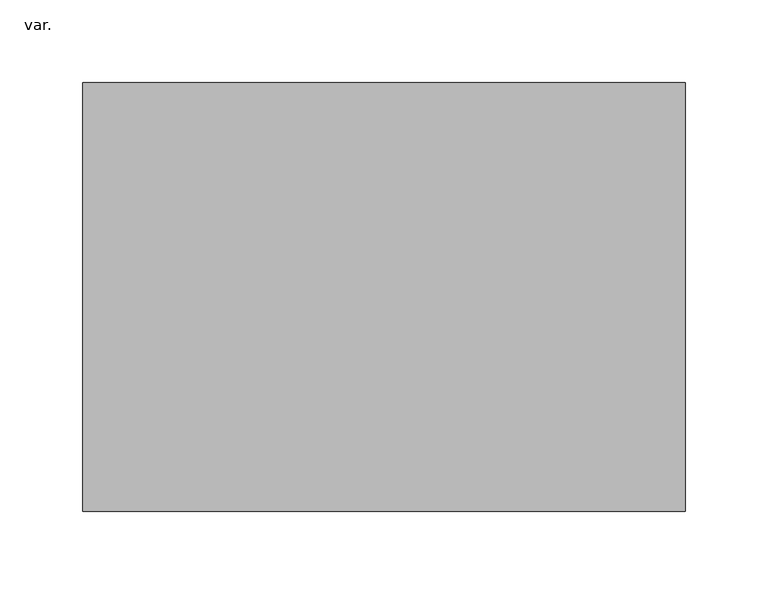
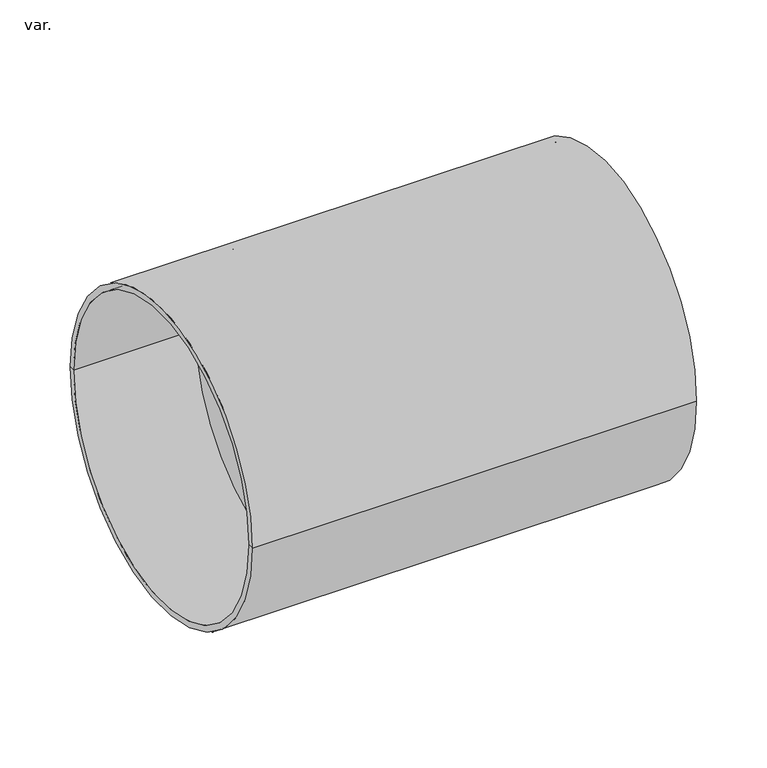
"""IFC4 building model written with IfcOpenShell, lengths in millimetres: pipe fitting geometry, NLRS_52_PIF_UN_Vacurain Flex steekmof_Dyka : var.."""

import ifcopenshell
import ifcopenshell.guid

model = None  # the IFC model being written
_history = None  # IfcOwnerHistory: only IFC2X3 demands one
_inside = {}  # id of a spatial element -> (the spatial element, [elements in it])
_under = {}  # id of a project, library or spatial element -> (it, [spatial elements below it])
_declared = {}  # id of a project -> (the project, [libraries it declares])
_typed = {}  # id of a type object -> (the type object, [elements of that type])
_made_of = {}  # id of a material, layer set ... -> (it, [elements and type objects made of it])


def new_model(schema):
    """Start an empty IFC model of exactly this schema.

    Asked for "IFC4X3", IfcOpenShell would pick the latest addendum, in which some entities
    have other attributes; the version numbers below select the first issue.
    IFC2X3 requires an IfcOwnerHistory on every rooted entity: one is made here for all.
    """
    global model, _history
    if schema == "IFC4X3":
        model = ifcopenshell.file(schema_version=(4, 3, 0, 0))
    else:
        model = ifcopenshell.file(schema=schema)
    _inside.clear()
    _under.clear()
    _declared.clear()
    _typed.clear()
    _made_of.clear()
    _history = None
    if model.schema == "IFC2X3":
        org = make("IfcOrganization", Name="unknown")
        user = make(
            "IfcPersonAndOrganization",
            ThePerson=make("IfcPerson", FamilyName="unknown"),
            TheOrganization=org,
        )
        app = make(
            "IfcApplication",
            ApplicationDeveloper=org,
            Version="unknown",
            ApplicationFullName="unknown",
            ApplicationIdentifier="unknown",
        )
        _history = make(
            "IfcOwnerHistory",
            OwningUser=user,
            OwningApplication=app,
            ChangeAction="ADDED",
            CreationDate=0,
        )
    return model


def make(cls, **values):
    """One entity of the class cls with the attributes given. An attribute that is None is left unset."""
    return model.create_entity(
        cls, **{name: value for name, value in values.items() if value is not None}
    )


def rooted(cls, **values):
    """An entity with a GlobalId (a new one), such as an element, a storey or a relation."""
    return make(cls, GlobalId=ifcopenshell.guid.new(), OwnerHistory=_history, **values)


def si_unit(unit_type, name, prefix=None):
    """IfcSIUnit, for example si_unit("LENGTHUNIT", "METRE", prefix="MILLI")."""
    return make("IfcSIUnit", UnitType=unit_type, Prefix=prefix, Name=name)


def assignment(units):
    """IfcUnitAssignment: the units of a project."""
    return None if units is None else make("IfcUnitAssignment", Units=units)


def point(xyz):
    """IfcCartesianPoint."""
    return None if xyz is None else make("IfcCartesianPoint", Coordinates=xyz)


def direction(xyz):
    """IfcDirection."""
    return None if xyz is None else make("IfcDirection", DirectionRatios=xyz)


def frame(location, z_axis=None, x_axis=None):
    """IfcAxis2Placement3D, a coordinate frame: its origin and axes. An axis left out is left unset."""
    return make(
        "IfcAxis2Placement3D",
        Location=point(location),
        Axis=direction(z_axis),
        RefDirection=direction(x_axis),
    )


def origin():
    """The frame at (0, 0, 0) with its axes left unset."""
    return frame((0.0, 0.0, 0.0))


def place(relative_to, where):
    """IfcLocalPlacement: puts the frame where relative to a parent placement (None: the world)."""
    return make(
        "IfcLocalPlacement", PlacementRelTo=relative_to, RelativePlacement=where
    )


def context(
    kind, dimensions, precision=None, world=None, true_north=None, identifier=None
):
    """IfcGeometricRepresentationContext, for example the 3D "Model" context."""
    return make(
        "IfcGeometricRepresentationContext",
        ContextIdentifier=identifier,
        ContextType=kind,
        CoordinateSpaceDimension=dimensions,
        Precision=precision,
        WorldCoordinateSystem=world,
        TrueNorth=true_north,
    )


def project(units=None, contexts=None):
    """IfcProject with its units and contexts."""
    return rooted(
        "IfcProject",
        Name="project",
        RepresentationContexts=contexts,
        UnitsInContext=assignment(units),
    )


def spatial(cls, under=None, at=None, **own):
    """A site, building, storey or space (cls), placed at a placement, below another one or the project."""
    s = rooted(cls, ObjectPlacement=at, **own)
    if under is not None:
        _under.setdefault(under.id(), (under, []))[1].append(s)
    return s


def polyline(points):
    """IfcPolyline through the points."""
    return make("IfcPolyline", Points=[point(p) for p in points])


def circle_curve(where, radius):
    """IfcCircle in the frame where."""
    return make("IfcCircle", Position=where, Radius=radius)


def shape(context_of_items, identifier, shape_type, items):
    """IfcShapeRepresentation: the items that make up one representation, for example the "Body"."""
    return make(
        "IfcShapeRepresentation",
        ContextOfItems=context_of_items,
        RepresentationIdentifier=identifier,
        RepresentationType=shape_type,
        Items=items,
    )


def source(mapping_origin, context_of_items, identifier, shape_type, items):
    """IfcRepresentationMap: a shape defined once, which mapped items show again and again."""
    return make(
        "IfcRepresentationMap",
        MappingOrigin=mapping_origin,
        MappedRepresentation=shape(context_of_items, identifier, shape_type, items),
    )


def transform(
    local_origin,
    x_axis=None,
    y_axis=None,
    z_axis=None,
    scale=None,
    scale2=None,
    scale3=None,
    uniform=True,
):
    """IfcCartesianTransformationOperator3D, or its non-uniform kind. x_axis, y_axis, z_axis: its Axis1, 2, 3."""
    if uniform:
        return make(
            "IfcCartesianTransformationOperator3D",
            Axis1=direction(x_axis),
            Axis2=direction(y_axis),
            LocalOrigin=point(local_origin),
            Scale=scale,
            Axis3=direction(z_axis),
        )
    return make(
        "IfcCartesianTransformationOperator3DnonUniform",
        Axis1=direction(x_axis),
        Axis2=direction(y_axis),
        LocalOrigin=point(local_origin),
        Scale=scale,
        Axis3=direction(z_axis),
        Scale2=scale2,
        Scale3=scale3,
    )


def mapped(mapping_source, mapping_target):
    """IfcMappedItem: shows the shape of a source again, moved by a transform."""
    return make(
        "IfcMappedItem", MappingSource=mapping_source, MappingTarget=mapping_target
    )


def made_of(thing, what):
    """Note that an element or type object is made of a material, layer set ...; save() writes the relation."""
    if what is not None:
        _made_of.setdefault(what.id(), (what, []))[1].append(thing)
    return thing


def element(
    cls,
    number,
    at=None,
    inside=None,
    cuts=None,
    type_object=None,
    material=None,
    context=None,
    identifier="Body",
    shape_type=None,
    held_by="IfcProductDefinitionShape",
    body=None,
    shapes=None,
    **own,
):
    """One element of the class cls, such as IfcWall. Its Tag is "e" and its number.

    at: its placement. inside: the storey or other place that contains it. cuts: it is an
    opening in that element (IfcRelVoidsElement). A single representation is given by context,
    identifier, shape_type and body (its items); several are given by shapes. held_by: the class
    of the entity that holds the representations. save() writes the other relations.
    """
    e = rooted(cls, Tag="e%d" % number, ObjectPlacement=at, **own)
    if body is not None:
        shapes = [shape(context, identifier, shape_type, body)]
    if shapes is not None:
        e.Representation = make(held_by, Representations=shapes)
    if inside is not None:
        _inside.setdefault(inside.id(), (inside, []))[1].append(e)
    if cuts is not None:
        rooted(
            "IfcRelVoidsElement", RelatingBuildingElement=cuts, RelatedOpeningElement=e
        )
    if type_object is not None:
        _typed.setdefault(type_object.id(), (type_object, []))[1].append(e)
    return made_of(e, material)


def aggregate(whole, parts):
    """IfcRelAggregates: a whole, such as a stair, and the parts it consists of."""
    return rooted("IfcRelAggregates", RelatingObject=whole, RelatedObjects=parts)


def save(model, path):
    """Write the relations noted so far, then the file.

    IfcRelAggregates (storeys below a building ...), IfcRelContainedInSpatialStructure (elements
    in a storey), IfcRelDefinesByType, IfcRelAssociatesMaterial and IfcRelDeclares: one each for
    every whole, place, type object, material and project.
    """
    for whole, parts in _under.values():
        aggregate(whole, parts)
    for where, things in _inside.values():
        rooted(
            "IfcRelContainedInSpatialStructure",
            RelatedElements=things,
            RelatingStructure=where,
        )
    for kind, things in _typed.values():
        rooted("IfcRelDefinesByType", RelatedObjects=things, RelatingType=kind)
    for what, things in _made_of.values():
        rooted("IfcRelAssociatesMaterial", RelatedObjects=things, RelatingMaterial=what)
    for by, libraries in _declared.values():
        rooted("IfcRelDeclares", RelatingContext=by, RelatedDefinitions=libraries)
    model.write(path)


def plane_surface(at):
    """IfcPlane: the flat surface through the origin of the frame at, square to its z axis."""
    return make("IfcPlane", Position=at)


def cylinder_surface(at, radius):
    """IfcCylindricalSurface: all points at the distance radius from the z axis of the frame at."""
    return make("IfcCylindricalSurface", Position=at, Radius=radius)


def revolved_surface(curve, axis_point, axis_direction):
    """IfcSurfaceOfRevolution: the curve turned about the line through axis_point along axis_direction."""
    return make(
        "IfcSurfaceOfRevolution",
        SweptCurve=make("IfcArbitraryOpenProfileDef", ProfileType="CURVE", Curve=curve),
        AxisPosition=make("IfcAxis1Placement", Location=point(axis_point), Axis=direction(axis_direction)),
    )


def advanced_brep(points, edges, surfaces, faces):
    """IfcAdvancedBrep: a solid bounded by faces that lie on surfaces and meet in shared edges.

    An edge is (start, end): straight between two places in points (the first is 0);
    or (start, end, curve); or (start, end, curve, False) where it runs against its curve.
    A face is (place in surfaces, loops), or (place, loops, False) where it looks against
    its surface's normal. A loop lists edges by number (the first is 1), with a minus sign
    where the edge is run from its end to its start. The first loop is the outer one.
    """
    corners = [point(p) for p in points]
    vertices = [make("IfcVertexPoint", VertexGeometry=c) for c in corners]
    made = []
    for start, end, *more in edges:
        made.append(
            make(
                "IfcEdgeCurve",
                EdgeStart=vertices[start],
                EdgeEnd=vertices[end],
                EdgeGeometry=more[0] if more else make("IfcPolyline", Points=[corners[start], corners[end]]),
                SameSense=more[1] if len(more) > 1 else True,
            )
        )
    hull = []
    for where, loops, *sense in faces:
        bounds = []
        for j, loop in enumerate(loops):
            ring = [make("IfcOrientedEdge", EdgeElement=made[abs(k) - 1], Orientation=k > 0) for k in loop]
            bounds.append(
                make(
                    "IfcFaceOuterBound" if j == 0 else "IfcFaceBound",
                    Bound=make("IfcEdgeLoop", EdgeList=ring),
                    Orientation=True,
                )
            )
        hull.append(make("IfcAdvancedFace", Bounds=bounds, FaceSurface=surfaces[where], SameSense=sense[0] if sense else True))
    return make("IfcAdvancedBrep", Outer=make("IfcClosedShell", CfsFaces=hull))


def var_4a002968(model_context):
    return source(origin(), model_context, "Body", "AdvancedBrep", [
        advanced_brep(
        [(182.5, -129.9, 0.0), (182.5, 129.9, 0.0), (182.5, 125.0, 0.0), (182.5, -125.0, 0.0), (-182.5, -129.9, 0.0), (-182.5, 129.9, 0.0), (-182.5, -125.0, 0.0), (-182.5, 125.0, 0.0), (-82.5, -125.0, 0.0), (-82.5, 125.0, 0.0), (-82.5, 0.0, 0.0), (82.5, -125.0, 0.0), (82.5, 125.0, 0.0), (82.5, 0.0, 0.0)],
        [
            (0, 1, circle_curve(frame((182.5, 0.0, 0.0), z_axis=(1.0, 0.0, 0.0), x_axis=(0.0, 1.0, 0.0)), 129.9)),
            (1, 2),
            (2, 3, circle_curve(frame((182.5, 0.0, 0.0), z_axis=(-1.0, 0.0, 0.0), x_axis=(0.0, 1.0, 0.0)), 125.0)),
            (3, 0),
            (1, 0, circle_curve(frame((182.5, 0.0, 0.0), z_axis=(1.0, 0.0, 0.0), x_axis=(0.0, 1.0, 0.0)), 129.9)),
            (3, 2, circle_curve(frame((182.5, 0.0, 0.0), z_axis=(-1.0, 0.0, 0.0), x_axis=(0.0, 1.0, 0.0)), 125.0)),
            (4, 5, circle_curve(frame((-182.5, 0.0, 0.0), z_axis=(1.0, 0.0, 0.0), x_axis=(0.0, 1.0, 0.0)), 129.9)),
            (5, 1),
            (0, 4),
            (5, 4, circle_curve(frame((-182.5, 0.0, 0.0), z_axis=(1.0, 0.0, 0.0), x_axis=(0.0, 1.0, 0.0)), 129.9)),
            (6, 7, circle_curve(frame((-182.5, 0.0, 0.0), z_axis=(1.0, 0.0, 0.0), x_axis=(0.0, 1.0, 0.0)), 125.0)),
            (7, 5),
            (4, 6),
            (7, 6, circle_curve(frame((-182.5, 0.0, 0.0), z_axis=(1.0, 0.0, 0.0), x_axis=(0.0, 1.0, 0.0)), 125.0)),
            (8, 9, circle_curve(frame((-82.5, 0.0, 0.0), z_axis=(1.0, 0.0, 0.0), x_axis=(0.0, 1.0, 0.0)), 125.0)),
            (9, 7),
            (6, 8),
            (9, 8, circle_curve(frame((-82.5, 0.0, 0.0), z_axis=(1.0, 0.0, 0.0), x_axis=(0.0, 1.0, 0.0)), 125.0)),
            (10, 9),
            (8, 10),
            (11, 12, circle_curve(frame((82.5, 0.0, 0.0), z_axis=(1.0, 0.0, 0.0), x_axis=(0.0, 1.0, 0.0)), 125.0)),
            (12, 13),
            (13, 11),
            (12, 11, circle_curve(frame((82.5, 0.0, 0.0), z_axis=(1.0, 0.0, 0.0), x_axis=(0.0, 1.0, 0.0)), 125.0)),
            (2, 12),
            (11, 3),
        ],
        [
            plane_surface(frame((182.5, 0.0, 0.0), z_axis=(1.0, 0.0, 0.0), x_axis=(0.0, 1.0, 0.0))),
            cylinder_surface(frame((-189.4, 0.0, 0.0), z_axis=(-1.0, 0.0, 0.0), x_axis=(0.0, 1.0, 0.0)), 129.9),
            plane_surface(frame((-182.5, 0.0, 0.0), z_axis=(-1.0, 0.0, 0.0), x_axis=(0.0, 1.0, 0.0))),
            revolved_surface(polyline([(-182.5, 125.0, 0.0), (-82.5, 125.0, 0.0)]), (-189.4, 0.0, 0.0), (-1.0, 0.0, 0.0)),
            plane_surface(frame((-82.5, 0.0, 0.0), z_axis=(-1.0, 0.0, 0.0), x_axis=(0.0, 1.0, 0.0))),
            plane_surface(frame((82.5, 0.0, 0.0), z_axis=(1.0, 0.0, 0.0), x_axis=(0.0, 1.0, 0.0))),
            revolved_surface(polyline([(82.49999999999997, 125.0, 0.0), (182.49999999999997, 125.0, 0.0)]), (-189.4, 0.0, 0.0), (-1.0, 0.0, 0.0)),
        ],
        [
            (0, [[1, 2, 3, 4]]),
            (0, [[5, -4, 6, -2]]),
            (1, [[7, 8, -1, 9]]),
            (1, [[10, -9, -5, -8]]),
            (2, [[11, 12, -7, 13]]),
            (2, [[14, -13, -10, -12]]),
            (3, [[15, 16, -11, 17]]),
            (3, [[18, -17, -14, -16]]),
            (4, [[19, -15, 20]]),
            (4, [[-20, -18, -19]]),
            (5, [[21, 22, 23]]),
            (5, [[24, -23, -22]]),
            (6, [[-3, 25, -21, 26]]),
            (6, [[-6, -26, -24, -25]]),
        ],
    ),
    ])


if __name__ == "__main__":
    model = new_model("IFC4")
    model_context = context("Model", 3, world=origin())
    ifc_project = project(units=[si_unit("LENGTHUNIT", "METRE", prefix="MILLI")], contexts=[model_context])
    site = spatial("IfcSite", under=ifc_project)
    building = spatial("IfcBuilding", under=site)
    placement = place(None, origin())
    var_shape = var_4a002968(model_context)
    element("IfcPipeFitting", 1, ObjectType="NLRS_52_PIF_UN_Vacurain Flex steekmof_Dyka : var.", at=placement, inside=building, context=model_context, shape_type="MappedRepresentation", body=[
        mapped(var_shape, transform((0.0, 0.0, 0.0), x_axis=(1.0, 0.0, 0.0), y_axis=(0.0, 1.0, 0.0), z_axis=(0.0, 0.0, 1.0))),
    ])
    save(model, "model.ifc")
